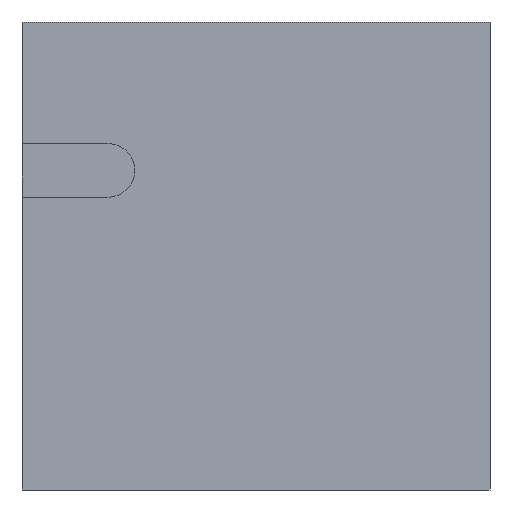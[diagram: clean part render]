
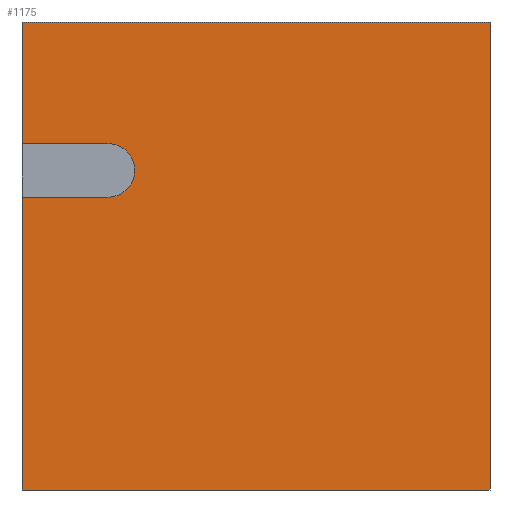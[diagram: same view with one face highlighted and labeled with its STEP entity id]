
A CAD part, left-side view. The second image highlights one B-rep face of the part: STEP entity #1175.
In plain terms, the highlighted planar face has unit normal (-1, 0, 0).
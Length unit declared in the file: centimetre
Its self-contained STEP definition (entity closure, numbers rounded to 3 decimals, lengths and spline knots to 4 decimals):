
#8 = DIRECTION ( 'NONE',  ( 0., -1., 0. ) ) ;
#21 = LINE ( 'NONE', #1066, #473 ) ;
#42 = VERTEX_POINT ( 'NONE', #696 ) ;
#97 = DIRECTION ( 'NONE',  ( 0., 0., -1. ) ) ;
#104 = CARTESIAN_POINT ( 'NONE',  ( 0., 1000., 1000. ) ) ;
#108 = CARTESIAN_POINT ( 'NONE',  ( 0., 1000., 0. ) ) ;
#123 = CARTESIAN_POINT ( 'NONE',  ( 0., 1000., 1000. ) ) ;
#218 = CARTESIAN_POINT ( 'NONE',  ( 0., 1000., 1000. ) ) ;
#219 = DIRECTION ( 'NONE',  ( -1., 0., 0. ) ) ;
#239 = EDGE_LOOP ( 'NONE', ( #1017, #579, #406, #858, #1200, #395, #959, #1008 ) ) ;
#278 = VERTEX_POINT ( 'NONE', #588 ) ;
#283 = LINE ( 'NONE', #385, #1090 ) ;
#295 = CARTESIAN_POINT ( 'NONE',  ( 0., 0., 1000. ) ) ;
#306 = EDGE_CURVE ( 'NONE', #1119, #567, #283, .T. ) ;
#318 = CARTESIAN_POINT ( 'NONE',  ( 0., 1000., 0. ) ) ;
#338 = CARTESIAN_POINT ( 'NONE',  ( 0., 1000., 1000. ) ) ;
#364 = VECTOR ( 'NONE', #8, 100. ) ;
#385 = CARTESIAN_POINT ( 'NONE',  ( 0., 0., 1000. ) ) ;
#387 = VECTOR ( 'NONE', #1135, 100. ) ;
#388 = VERTEX_POINT ( 'NONE', #421 ) ;
#395 = ORIENTED_EDGE ( 'NONE', *, *, #1081, .F. ) ;
#406 = ORIENTED_EDGE ( 'NONE', *, *, #885, .T. ) ;
#421 = CARTESIAN_POINT ( 'NONE',  ( 0., 1000., 625.5489 ) ) ;
#428 = DIRECTION ( 'NONE',  ( 0., 0., -1. ) ) ;
#433 = DIRECTION ( 'NONE',  ( 0., -1., 0. ) ) ;
#473 = VECTOR ( 'NONE', #537, 100. ) ;
#481 = LINE ( 'NONE', #682, #589 ) ;
#513 = VERTEX_POINT ( 'NONE', #869 ) ;
#534 = DIRECTION ( 'NONE',  ( 1., 0., 0. ) ) ;
#537 = DIRECTION ( 'NONE',  ( 0., 1., 0. ) ) ;
#567 = VERTEX_POINT ( 'NONE', #664 ) ;
#573 = DIRECTION ( 'NONE',  ( 0., -1., 0. ) ) ;
#579 = ORIENTED_EDGE ( 'NONE', *, *, #833, .F. ) ;
#588 = CARTESIAN_POINT ( 'NONE',  ( 0., 816.4509, 625.5489 ) ) ;
#589 = VECTOR ( 'NONE', #573, 100. ) ;
#635 = DIRECTION ( 'NONE',  ( 0., 0., -1. ) ) ;
#645 = VECTOR ( 'NONE', #433, 100. ) ;
#664 = CARTESIAN_POINT ( 'NONE',  ( 0., 0., 0. ) ) ;
#682 = CARTESIAN_POINT ( 'NONE',  ( 0., 816.4509, 625.5489 ) ) ;
#696 = CARTESIAN_POINT ( 'NONE',  ( 0., 816.4509, 740.1634 ) ) ;
#826 = DIRECTION ( 'NONE',  ( 0., 0., -1. ) ) ;
#828 = AXIS2_PLACEMENT_3D ( 'NONE', #123, #534, #826 ) ;
#833 = EDGE_CURVE ( 'NONE', #388, #278, #481, .T. ) ;
#835 = LINE ( 'NONE', #218, #387 ) ;
#853 = CARTESIAN_POINT ( 'NONE',  ( 0., 1000., 1000. ) ) ;
#858 = ORIENTED_EDGE ( 'NONE', *, *, #951, .T. ) ;
#869 = CARTESIAN_POINT ( 'NONE',  ( 0., 1000., 740.1634 ) ) ;
#885 = EDGE_CURVE ( 'NONE', #388, #928, #835, .T. ) ;
#886 = CIRCLE ( 'NONE', #1281, 57.3072 ) ;
#928 = VERTEX_POINT ( 'NONE', #108 ) ;
#950 = LINE ( 'NONE', #104, #1169 ) ;
#951 = EDGE_CURVE ( 'NONE', #928, #567, #1040, .T. ) ;
#958 = LINE ( 'NONE', #338, #645 ) ;
#959 = ORIENTED_EDGE ( 'NONE', *, *, #1111, .T. ) ;
#1008 = ORIENTED_EDGE ( 'NONE', *, *, #1073, .F. ) ;
#1017 = ORIENTED_EDGE ( 'NONE', *, *, #1199, .F. ) ;
#1027 = FACE_OUTER_BOUND ( 'NONE', #239, .T. ) ;
#1040 = LINE ( 'NONE', #318, #364 ) ;
#1048 = CARTESIAN_POINT ( 'NONE',  ( 0., 816.4509, 682.8561 ) ) ;
#1066 = CARTESIAN_POINT ( 'NONE',  ( 0., 1000., 740.1634 ) ) ;
#1073 = EDGE_CURVE ( 'NONE', #42, #513, #21, .T. ) ;
#1081 = EDGE_CURVE ( 'NONE', #1082, #1119, #958, .T. ) ;
#1082 = VERTEX_POINT ( 'NONE', #853 ) ;
#1090 = VECTOR ( 'NONE', #97, 100. ) ;
#1111 = EDGE_CURVE ( 'NONE', #1082, #513, #950, .T. ) ;
#1119 = VERTEX_POINT ( 'NONE', #295 ) ;
#1135 = DIRECTION ( 'NONE',  ( 0., 0., -1. ) ) ;
#1169 = VECTOR ( 'NONE', #428, 100. ) ;
#1175 = ADVANCED_FACE ( 'NONE', ( #1027 ), #1248, .F. ) ;
#1199 = EDGE_CURVE ( 'NONE', #278, #42, #886, .T. ) ;
#1200 = ORIENTED_EDGE ( 'NONE', *, *, #306, .F. ) ;
#1248 = PLANE ( 'NONE',  #828 ) ;
#1281 = AXIS2_PLACEMENT_3D ( 'NONE', #1048, #219, #635 ) ;
